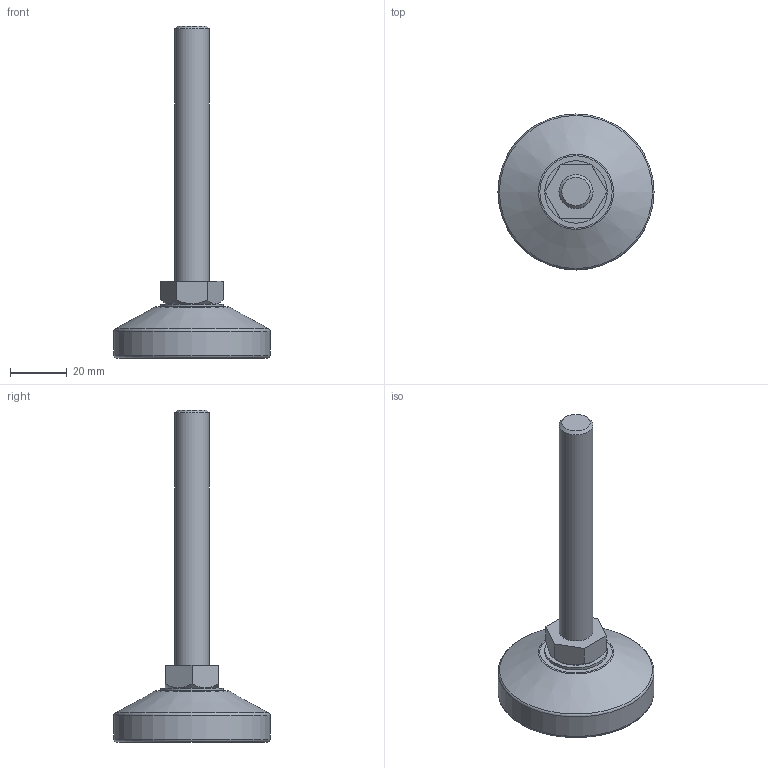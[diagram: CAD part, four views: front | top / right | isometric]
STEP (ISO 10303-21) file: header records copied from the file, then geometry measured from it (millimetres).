
FILE_DESCRIPTION(/* description */ (''),/* implementation_level */ '2;1');
FILE_NAME(/* name */ 'D:\조절자\F\F-M12-90L.stp',/* time_stamp */ '2016-03-14T14:33:59+09:00',/* author */ ('GS-DT-1-001'),/* organization */ (''),/* preprocessor_version */ 'ST-DEVELOPER v15.6',/* originating_system */ 'Autodesk Inventor LT ',/* authorisation */ '');
FILE_SCHEMA (('AUTOMOTIVE_DESIGN { 1 0 10303 214 3 1 1 }'));
Length unit declared in the file: millimetre
Products named in the file (1): F-M12-90L
Bounding box: 55 x 55 x 117 mm (x, y, z)
Volume: 36867.6 mm3; surface area: 13360.1 mm2
Topology: 3 solids, 3 shells, 36 faces, 66 edges, 41 vertices
Faces by surface type: plane 17, cylinder 9, cone 6, torus 4
Full cylindrical faces by diameter (mm): 5.153 x1, 6.1 x1, 6.2 x1, 12 x1, 22 x1, 35 x1, 46 x1, 50 x1, 55 x1
Entity records: 806 total; most frequent: DIRECTION 142, CARTESIAN_POINT 135, ORIENTED_EDGE 92, AXIS2_PLACEMENT_3D 65, EDGE_LOOP 64, EDGE_CURVE 46, VERTEX_POINT 40, FACE_OUTER_BOUND 36
